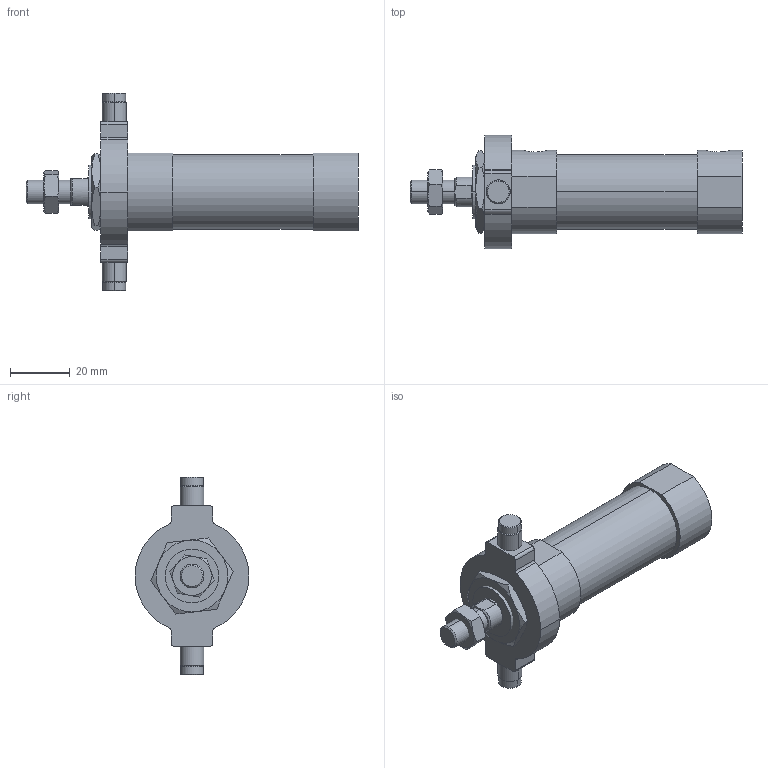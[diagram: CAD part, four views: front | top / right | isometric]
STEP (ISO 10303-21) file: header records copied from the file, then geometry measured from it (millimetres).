
FILE_DESCRIPTION (( 'STEP AP203' ), '1' );
FILE_NAME ('JGND2-20-15-T.STEP', '2016-08-04T02:20:35', ( '' ), ( '' ), 'SwSTEP 2.0', 'SolidWorks 2014', '' );
FILE_SCHEMA (( 'CONFIG_CONTROL_DESIGN' ));
Length unit declared in the file: millimetre
Products named in the file (5): JGND2-20-15-T; J#2-20-15(P); J#2-20-T
Assembly tree (4 placements, depth 2):
  JGND2-20-15-T
    J#2-20-15(P)
    (unnamed)
    (unnamed)
    J#2-20-T
Bounding box: 111 x 38 x 66 mm (x, y, z)
Volume: 55349.7 mm3; surface area: 15451.9 mm2
Topology: 4 solids, 4 shells, 123 faces, 275 edges, 170 vertices
Faces by surface type: plane 44, cylinder 43, torus 24, cone 12
Entity records: 4286 total; most frequent: CARTESIAN_POINT 1031, DIRECTION 597, ORIENTED_EDGE 550, EDGE_CURVE 275, AXIS2_PLACEMENT_3D 248, VERTEX_POINT 170, EDGE_LOOP 139, FACE_OUTER_BOUND 123
